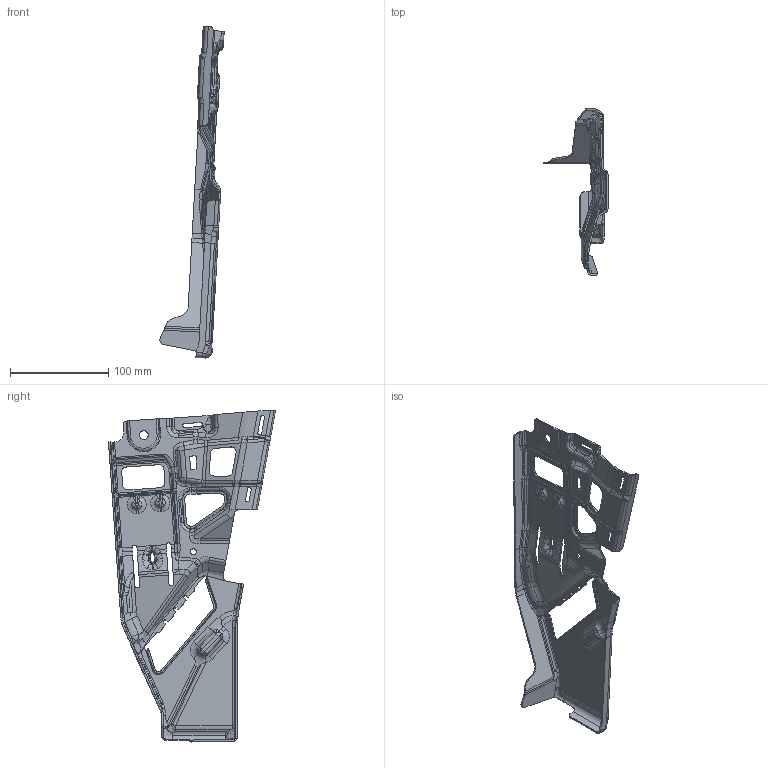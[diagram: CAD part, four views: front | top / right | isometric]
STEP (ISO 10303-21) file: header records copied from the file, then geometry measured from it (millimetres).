
FILE_DESCRIPTION(('CATIA V5 STEP Exchange'),'2;1');
FILE_NAME('D:\杨逍（新）\06-李燕龙\2023.1.9-G3新开件2D图纸-李燕龙\钣金单件图纸\SHT0015257-副驾安全带高调机构固定板2\SHT0015257.stp','2023-01-11T06:20:25+00:00',('none'),('none'),'CATIA Version 5 Release 20 GA (IN-10)','CATIA V5 STEP AP214','none');
FILE_SCHEMA(('AUTOMOTIVE_DESIGN { 1 0 10303 214 1 1 1 1 }'));
Products named in the file (1): Part60
Bounding box: 65.47 x 169.99 x 337.77 mm (x, y, z)
Volume: 70010.4 mm3; surface area: 90891.4 mm2
Topology: 1 solids, 1 shells, 1164 faces, 3338 edges, 2131 vertices
Faces by surface type: cylinder 466, bspline 413, plane 162, torus 48, sphere 33, revolution 24, cone 18
Entity records: 127195 total; most frequent: CARTESIAN_POINT 102732, ORIENTED_EDGE 6598, EDGE_CURVE 3299, DIRECTION 2557, B_SPLINE_CURVE_WITH_KNOTS 2166, VERTEX_POINT 2131, EDGE_LOOP 1184, ADVANCED_FACE 1164
